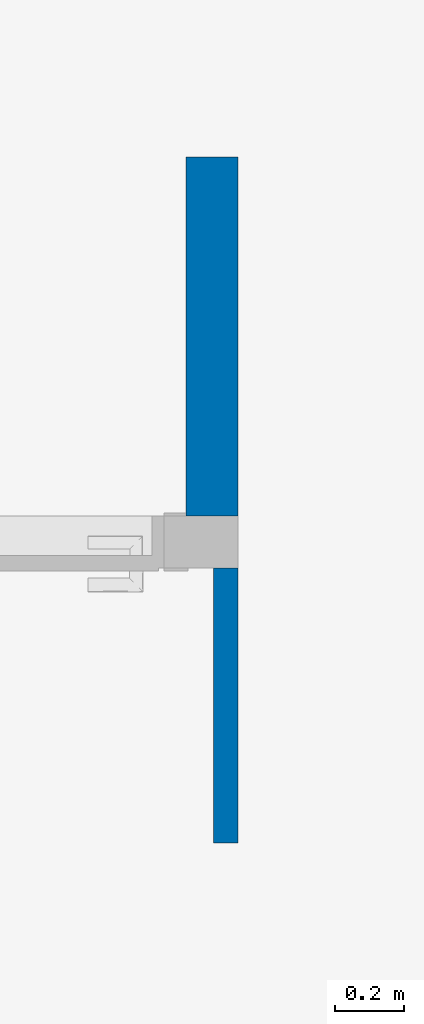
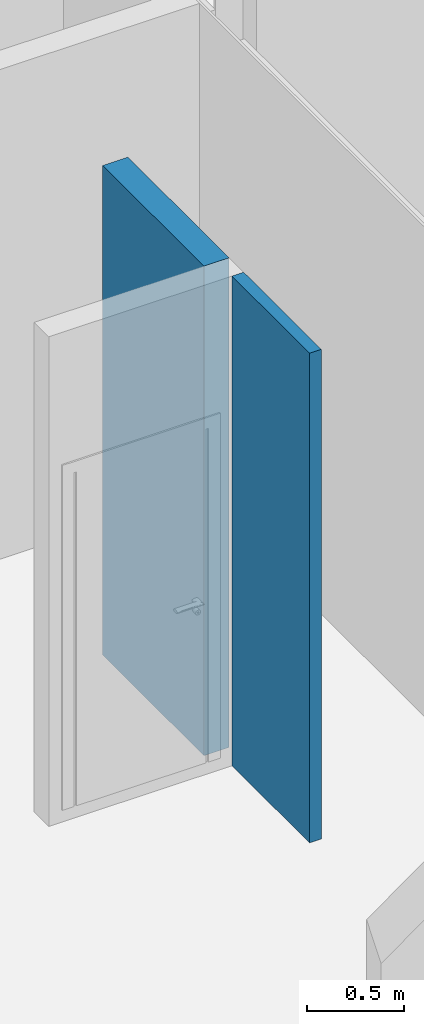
# One storey, part 4 of 11: 2 walls.
"""IFC2X3 building model written with IfcOpenShell, lengths in metres."""

from ifc_helpers import new_model, entity, si_unit, converted_unit, derived_unit, direction, frame, frame_2d, origin, place, context, subcontext, project, spatial, rectangle, extrude, material, layer, layer_set, layer_usage, type_object, element, save


model = new_model("IFC2X3")

# Units and contexts
model_context = context("Model", 3, precision=1e-05, world=origin(), true_north=direction((6.12303176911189e-17, 1.0)))
context_of_model = context(None, 3, precision=1e-05, world=origin(), true_north=direction((6.12303176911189e-17, 1.0)))
body_context = subcontext(model_context, "Body", "Model", "MODEL_VIEW")
ifc_project = project(units=[si_unit("LENGTHUNIT", "METRE"), si_unit("AREAUNIT", "SQUARE_METRE"), si_unit("VOLUMEUNIT", "CUBIC_METRE"), converted_unit("PLANEANGLEUNIT", "DEGREE", entity("IfcRatioMeasure", 0.0174532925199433), si_unit("PLANEANGLEUNIT", "RADIAN"), dimensions=[0, 0, 0, 0, 0, 0, 0]), si_unit("MASSUNIT", "GRAM", prefix="KILO"), si_unit("TIMEUNIT", "SECOND"), si_unit("FREQUENCYUNIT", "HERTZ"), si_unit("THERMODYNAMICTEMPERATUREUNIT", "DEGREE_CELSIUS"), derived_unit("THERMALTRANSMITTANCEUNIT", [(si_unit("MASSUNIT", "GRAM", prefix="KILO"), 1), (si_unit("THERMODYNAMICTEMPERATUREUNIT", "KELVIN"), -1), (si_unit("TIMEUNIT", "SECOND"), -3)]), derived_unit("VOLUMETRICFLOWRATEUNIT", [(si_unit("LENGTHUNIT", "METRE"), 3), (si_unit("TIMEUNIT", "SECOND"), -1)]), si_unit("ELECTRICCURRENTUNIT", "AMPERE"), si_unit("ELECTRICVOLTAGEUNIT", "VOLT"), si_unit("POWERUNIT", "WATT"), si_unit("FORCEUNIT", "NEWTON", prefix="KILO"), si_unit("ILLUMINANCEUNIT", "LUX"), si_unit("LUMINOUSFLUXUNIT", "LUMEN"), si_unit("LUMINOUSINTENSITYUNIT", "CANDELA"), si_unit("PRESSUREUNIT", "PASCAL")], contexts=[model_context, context_of_model])

# Site, building, storey
site_placement = place(None, origin())
site = spatial("IfcSite", under=ifc_project, at=site_placement, Name="Default", CompositionType="ELEMENT")
building_placement = place(site_placement, origin())
building = spatial("IfcBuilding", under=site, at=building_placement, CompositionType="ELEMENT")
storey_placement = place(building_placement, frame((0.0, 0.0, 0.12)))
storey = spatial("IfcBuildingStorey", under=building, at=storey_placement, Name="01.ES.FORJADO PLANTA BAJA", CompositionType="ELEMENT", Elevation=0.12)

# Walls
ifc_material = material(Name="Muro por defecto")
ifc_layer_1 = layer(ifc_material, 0.15)
ifc_layer_set_1 = layer_set([ifc_layer_1], Name="Muro básico:Por defecto - 15 cm")
ifc_layer_usage_1 = layer_usage(ifc_layer_set_1, "AXIS2", "NEGATIVE", 0.075)
wall_type_1 = type_object("IfcWallType", Name="Muro básico:Por defecto - 15 cm", PredefinedType="STANDARD", material=ifc_layer_set_1)
wall_1_placement = place(storey_placement, frame((10.315, 6.60000000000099, 0.0), z_axis=(0.0, 0.0, 1.0), x_axis=(0.0, 1.0, 0.0)))
element("IfcWallStandardCase", 1, at=wall_1_placement, inside=storey, type_object=wall_type_1, material=ifc_layer_usage_1, Name="Muro básico:Por defecto - 15 cm", ObjectType="Muro básico:Por defecto - 15 cm", context=body_context, shape_type="SweptSolid", body=[
    extrude(rectangle(XDim=1.04406560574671, YDim=0.150000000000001, at=frame_2d((0.522032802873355, -1.31838984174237e-16), x_axis=(-1.0, 0.0))), origin(), (0.0, 0.0, 1.0), 3.08),
])
ifc_layer_2 = layer(ifc_material, 0.07)
ifc_layer_set_2 = layer_set([ifc_layer_2], Name="Muro básico:Por defecto - 7 cm")
ifc_layer_usage_2 = layer_usage(ifc_layer_set_2, "AXIS2", "NEGATIVE", 0.035)
wall_type_2 = type_object("IfcWallType", Name="Muro básico:Por defecto - 7 cm", PredefinedType="STANDARD", material=ifc_layer_set_2)
wall_2_placement = place(storey_placement, frame((10.355, 5.65012498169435, 0.0), z_axis=(0.0, 0.0, 1.0), x_axis=(0.0, 1.0, 0.0)))
element("IfcWallStandardCase", 2, at=wall_2_placement, inside=storey, type_object=wall_type_2, material=ifc_layer_usage_2, Name="Muro básico:Por defecto - 7 cm", ObjectType="Muro básico:Por defecto - 7 cm", context=body_context, shape_type="SweptSolid", body=[
    extrude(rectangle(XDim=0.799875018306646, YDim=0.0700000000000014, at=frame_2d((0.399937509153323, 0.0), x_axis=(-1.0, 0.0))), origin(), (0.0, 0.0, 1.0), 3.08),
])

save(model, "model.ifc")
